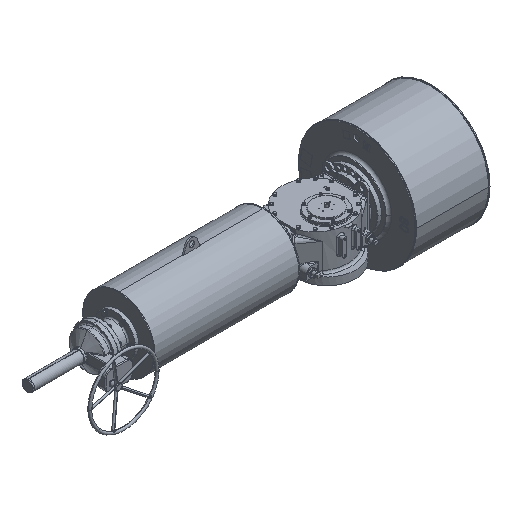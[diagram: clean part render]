
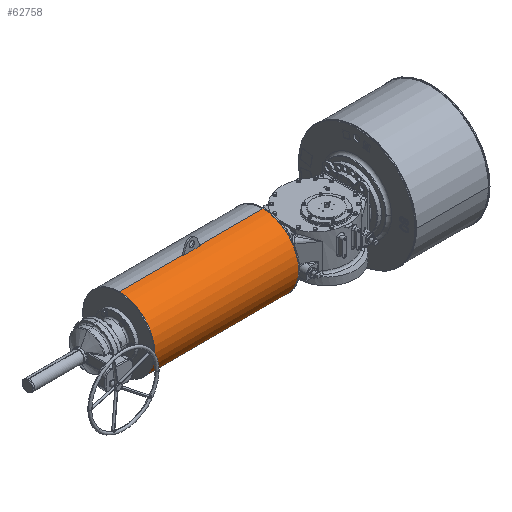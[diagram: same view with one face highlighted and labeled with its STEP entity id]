
A CAD part, isometric view. The second image highlights one B-rep face of the part: STEP entity #62758.
In plain terms, the highlighted cylindrical face has radius 254 mm (diameter 508 mm), a partial arc.
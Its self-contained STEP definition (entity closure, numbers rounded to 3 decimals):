
#2205 = VECTOR ( 'NONE', #28824, 1000. ) ;
#4526 = ORIENTED_EDGE ( 'NONE', *, *, #89036, .T. ) ;
#4740 = CARTESIAN_POINT ( 'NONE',  ( -887.5, 135., 366.951 ) ) ;
#4769 = CARTESIAN_POINT ( 'NONE',  ( -317.5, 140., -141. ) ) ;
#7429 = EDGE_CURVE ( 'NONE', #50535, #50959, #59553, .T. ) ;
#8520 = DIRECTION ( 'NONE',  ( 1., 0., 0. ) ) ;
#8583 = CARTESIAN_POINT ( 'NONE',  ( -887.5, 140., 113. ) ) ;
#8729 = CARTESIAN_POINT ( 'NONE',  ( -317.5, 140., 113. ) ) ;
#9130 = ORIENTED_EDGE ( 'NONE', *, *, #99585, .T. ) ;
#11430 = VERTEX_POINT ( 'NONE', #4740 ) ;
#12614 = VERTEX_POINT ( 'NONE', #68337 ) ;
#12743 = DIRECTION ( 'NONE',  ( 1., 0., 0. ) ) ;
#13529 = VERTEX_POINT ( 'NONE', #94187 ) ;
#14659 = CIRCLE ( 'NONE', #26088, 254. ) ;
#16135 = AXIS2_PLACEMENT_3D ( 'NONE', #8583, #70011, #71005 ) ;
#16402 = FACE_OUTER_BOUND ( 'NONE', #86677, .T. ) ;
#17823 = EDGE_CURVE ( 'NONE', #13529, #50959, #100070, .T. ) ;
#18744 = EDGE_CURVE ( 'NONE', #37653, #13529, #14659, .T. ) ;
#19878 = AXIS2_PLACEMENT_3D ( 'NONE', #98245, #12743, #59867 ) ;
#20456 = ORIENTED_EDGE ( 'NONE', *, *, #48421, .T. ) ;
#20895 = CARTESIAN_POINT ( 'NONE',  ( -314.5, 140., 113. ) ) ;
#20992 = CARTESIAN_POINT ( 'NONE',  ( -314.5, 140., 113. ) ) ;
#21645 = VERTEX_POINT ( 'NONE', #91398 ) ;
#21681 = CARTESIAN_POINT ( 'NONE',  ( -314.5, 140., -141. ) ) ;
#23879 = LINE ( 'NONE', #84821, #60864 ) ;
#24038 = AXIS2_PLACEMENT_3D ( 'NONE', #72129, #50645, #50151 ) ;
#25357 = CARTESIAN_POINT ( 'NONE',  ( -317.5, 140., 367. ) ) ;
#26088 = AXIS2_PLACEMENT_3D ( 'NONE', #46171, #54833, #31770 ) ;
#28824 = DIRECTION ( 'NONE',  ( -1., 0., 0. ) ) ;
#30341 = ORIENTED_EDGE ( 'NONE', *, *, #7429, .F. ) ;
#31349 = LINE ( 'NONE', #32843, #63167 ) ;
#31770 = DIRECTION ( 'NONE',  ( 0., 0., -1. ) ) ;
#32843 = CARTESIAN_POINT ( 'NONE',  ( -317.5, 140., 367. ) ) ;
#35728 = CIRCLE ( 'NONE', #16135, 254. ) ;
#37653 = VERTEX_POINT ( 'NONE', #60942 ) ;
#44486 = VERTEX_POINT ( 'NONE', #67728 ) ;
#45674 = ORIENTED_EDGE ( 'NONE', *, *, #68520, .F. ) ;
#46113 = ORIENTED_EDGE ( 'NONE', *, *, #18744, .T. ) ;
#46167 = VERTEX_POINT ( 'NONE', #83866 ) ;
#46171 = CARTESIAN_POINT ( 'NONE',  ( -1340.5, 140., 113. ) ) ;
#47653 = CYLINDRICAL_SURFACE ( 'NONE', #71884, 254. ) ;
#48153 = DIRECTION ( 'NONE',  ( 0., 0., -1. ) ) ;
#48421 = EDGE_CURVE ( 'NONE', #46167, #21645, #79286, .T. ) ;
#50151 = DIRECTION ( 'NONE',  ( 0., 0., -1. ) ) ;
#50535 = VERTEX_POINT ( 'NONE', #21681 ) ;
#50645 = DIRECTION ( 'NONE',  ( 1., 0., 0. ) ) ;
#50845 = EDGE_CURVE ( 'NONE', #76870, #44486, #84487, .T. ) ;
#50959 = VERTEX_POINT ( 'NONE', #53697 ) ;
#51624 = DIRECTION ( 'NONE',  ( -1., 0., 0. ) ) ;
#52218 = DIRECTION ( 'NONE',  ( 0., 0., -1. ) ) ;
#53697 = CARTESIAN_POINT ( 'NONE',  ( -1340.5, 140., -141. ) ) ;
#53723 = CIRCLE ( 'NONE', #86444, 254. ) ;
#54192 = ORIENTED_EDGE ( 'NONE', *, *, #17823, .T. ) ;
#54833 = DIRECTION ( 'NONE',  ( 1., 0., 0. ) ) ;
#55980 = EDGE_CURVE ( 'NONE', #21645, #76870, #31349, .T. ) ;
#58047 = AXIS2_PLACEMENT_3D ( 'NONE', #20895, #51624, #83327 ) ;
#59553 = LINE ( 'NONE', #4769, #2205 ) ;
#59867 = DIRECTION ( 'NONE',  ( 0., 0., -1. ) ) ;
#60864 = VECTOR ( 'NONE', #8520, 1000. ) ;
#60942 = CARTESIAN_POINT ( 'NONE',  ( -1340.5, 140., 367. ) ) ;
#62758 = ADVANCED_FACE ( 'NONE', ( #16402 ), #47653, .T. ) ;
#63167 = VECTOR ( 'NONE', #86631, 1000. ) ;
#64780 = LINE ( 'NONE', #25357, #84259 ) ;
#65983 = ORIENTED_EDGE ( 'NONE', *, *, #94178, .T. ) ;
#67728 = CARTESIAN_POINT ( 'NONE',  ( -767.5, 135., 366.951 ) ) ;
#68337 = CARTESIAN_POINT ( 'NONE',  ( -887.5, 140., 367. ) ) ;
#68520 = EDGE_CURVE ( 'NONE', #11430, #44486, #23879, .T. ) ;
#70011 = DIRECTION ( 'NONE',  ( -1., 0., 0. ) ) ;
#71005 = DIRECTION ( 'NONE',  ( 0., 0., 1. ) ) ;
#71884 = AXIS2_PLACEMENT_3D ( 'NONE', #8729, #79870, #48153 ) ;
#72129 = CARTESIAN_POINT ( 'NONE',  ( -767.5, 140., 113. ) ) ;
#75378 = CARTESIAN_POINT ( 'NONE',  ( -767.5, 140., 367. ) ) ;
#76870 = VERTEX_POINT ( 'NONE', #75378 ) ;
#79286 = CIRCLE ( 'NONE', #58047, 254. ) ;
#79870 = DIRECTION ( 'NONE',  ( -1., 0., 0. ) ) ;
#83327 = DIRECTION ( 'NONE',  ( 0., 0., -1. ) ) ;
#83866 = CARTESIAN_POINT ( 'NONE',  ( -314.5, -114., 113. ) ) ;
#84259 = VECTOR ( 'NONE', #96034, 1000. ) ;
#84487 = CIRCLE ( 'NONE', #24038, 254. ) ;
#84821 = CARTESIAN_POINT ( 'NONE',  ( -317.5, 135., 366.951 ) ) ;
#86444 = AXIS2_PLACEMENT_3D ( 'NONE', #20992, #98282, #52218 ) ;
#86631 = DIRECTION ( 'NONE',  ( -1., 0., 0. ) ) ;
#86677 = EDGE_LOOP ( 'NONE', ( #9130, #20456, #90935, #92024, #45674, #4526, #65983, #46113, #54192, #30341 ) ) ;
#89036 = EDGE_CURVE ( 'NONE', #11430, #12614, #35728, .T. ) ;
#90935 = ORIENTED_EDGE ( 'NONE', *, *, #55980, .T. ) ;
#91398 = CARTESIAN_POINT ( 'NONE',  ( -314.5, 140., 367. ) ) ;
#92024 = ORIENTED_EDGE ( 'NONE', *, *, #50845, .T. ) ;
#94178 = EDGE_CURVE ( 'NONE', #12614, #37653, #64780, .T. ) ;
#94187 = CARTESIAN_POINT ( 'NONE',  ( -1340.5, -114., 113. ) ) ;
#96034 = DIRECTION ( 'NONE',  ( -1., 0., 0. ) ) ;
#98245 = CARTESIAN_POINT ( 'NONE',  ( -1340.5, 140., 113. ) ) ;
#98282 = DIRECTION ( 'NONE',  ( -1., 0., 0. ) ) ;
#99585 = EDGE_CURVE ( 'NONE', #50535, #46167, #53723, .T. ) ;
#100070 = CIRCLE ( 'NONE', #19878, 254. ) ;
